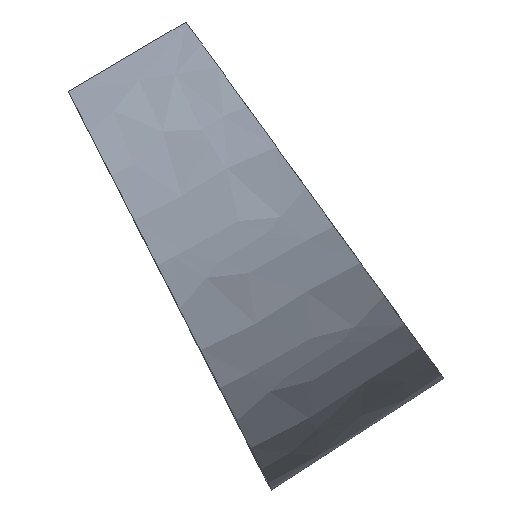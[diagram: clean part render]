
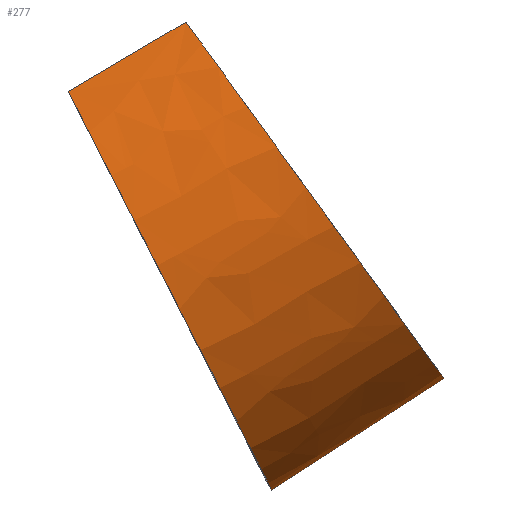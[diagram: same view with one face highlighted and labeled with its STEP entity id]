
A CAD part, top view. The second image highlights one B-rep face of the part: STEP entity #277.
In plain terms, the highlighted free-form (B-spline) face has degree [3, 3] with [13, 4] control points.
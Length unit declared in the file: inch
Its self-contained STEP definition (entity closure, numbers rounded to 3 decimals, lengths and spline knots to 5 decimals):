
#7 = CARTESIAN_POINT ( 'NONE',  ( 66.98755, -131.3271, 23.0329 ) ) ;
#8 = CARTESIAN_POINT ( 'NONE',  ( 86.36227, -118.91254, 22.64735 ) ) ;
#14 = CARTESIAN_POINT ( 'NONE',  ( 73.44579, -127.18892, 22.90437 ) ) ;
#15 = VERTEX_POINT ( 'NONE', #81 ) ;
#17 = CARTESIAN_POINT ( 'NONE',  ( 66.98755, -131.3271, 23.0329 ) ) ;
#18 = CARTESIAN_POINT ( 'NONE',  ( 70.55284, -138.29797, 6.29826 ) ) ;
#19 = ORIENTED_EDGE ( 'NONE', *, *, #146, .T. ) ;
#27 = CARTESIAN_POINT ( 'NONE',  ( 53.81729, -93.17151, 33.49519 ) ) ;
#28 = CARTESIAN_POINT ( 'NONE',  ( 74.14765, -102.03491, 34.67626 ) ) ;
#30 = CARTESIAN_POINT ( 'NONE',  ( 80.72152, -111.11856, 30.04021 ) ) ;
#33 = CARTESIAN_POINT ( 'NONE',  ( 46.51891, -91.30231, 30.61811 ) ) ;
#34 = CARTESIAN_POINT ( 'NONE',  ( 65.23694, -100.40221, 34.88499 ) ) ;
#36 = CARTESIAN_POINT ( 'NONE',  ( 56.8242, -98.38323, 35.09415 ) ) ;
#37 = CARTESIAN_POINT ( 'NONE',  ( 88.14638, -121.37759, 17.3987 ) ) ;
#39 = CARTESIAN_POINT ( 'NONE',  ( 77.33849, -133.93443, 0.12772 ) ) ;
#43 = CARTESIAN_POINT ( 'NONE',  ( 90.88945, -125.16757, 0.12776 ) ) ;
#49 = EDGE_CURVE ( 'NONE', #56, #178, #210, .T. ) ;
#50 = EDGE_CURVE ( 'NONE', #196, #56, #248, .T. ) ;
#55 = CARTESIAN_POINT ( 'NONE',  ( 62.53187, -122.61516, 30.553 ) ) ;
#56 = VERTEX_POINT ( 'NONE', #301 ) ;
#58 = CARTESIAN_POINT ( 'NONE',  ( 68.59509, -118.78298, 30.38207 ) ) ;
#59 = CARTESIAN_POINT ( 'NONE',  ( 89.93048, -123.84264, 12.15005 ) ) ;
#63 = CARTESIAN_POINT ( 'NONE',  ( 63.53772, -87.37295, 33.11671 ) ) ;
#78 = CARTESIAN_POINT ( 'NONE',  ( 90.87635, -125.14947, 6.19459 ) ) ;
#81 = CARTESIAN_POINT ( 'NONE',  ( 46.51891, -91.30231, 30.61811 ) ) ;
#82 = CARTESIAN_POINT ( 'NONE',  ( 65.94605, -114.19228, 33.45059 ) ) ;
#84 = CARTESIAN_POINT ( 'NONE',  ( 71.79356, -110.52722, 33.26221 ) ) ;
#94 = CARTESIAN_POINT ( 'NONE',  ( 69.80587, -136.8375, 12.35563 ) ) ;
#95 = CARTESIAN_POINT ( 'NONE',  ( 70.56301, -138.31785, 0.1277 ) ) ;
#112 = CARTESIAN_POINT ( 'NONE',  ( 58.67751, -90.27224, 33.30596 ) ) ;
#113 = CARTESIAN_POINT ( 'NONE',  ( 60.09853, -117.85733, 33.63897 ) ) ;
#115 = CARTESIAN_POINT ( 'NONE',  ( 83.22228, -128.17426, 12.21857 ) ) ;
#118 = CARTESIAN_POINT ( 'NONE',  ( 51.71925, -101.47243, 35.29227 ) ) ;
#119 = CARTESIAN_POINT ( 'NONE',  ( 90.87635, -125.14947, 6.19459 ) ) ;
#120 = EDGE_CURVE ( 'NONE', #178, #15, #272, .T. ) ;
#121 = ORIENTED_EDGE ( 'NONE', *, *, #50, .T. ) ;
#122 = CARTESIAN_POINT ( 'NONE',  ( 70.55284, -138.29797, 6.29826 ) ) ;
#127 = CARTESIAN_POINT ( 'NONE',  ( 84.11397, -129.551, 0.12774 ) ) ;
#131 = CARTESIAN_POINT ( 'NONE',  ( 86.36227, -118.91254, 22.64735 ) ) ;
#133 = CARTESIAN_POINT ( 'NONE',  ( 60.45155, -83.10772, 30.10206 ) ) ;
#136 = CARTESIAN_POINT ( 'NONE',  ( 55.80735, -85.83926, 30.27409 ) ) ;
#137 = CARTESIAN_POINT ( 'NONE',  ( 68.54473, -105.5104, 34.87396 ) ) ;
#146 = EDGE_CURVE ( 'NONE', #15, #196, #199, .T. ) ;
#148 = CARTESIAN_POINT ( 'NONE',  ( 64.9652, -127.373, 27.46703 ) ) ;
#152 = ORIENTED_EDGE ( 'NONE', *, *, #120, .T. ) ;
#155 = CARTESIAN_POINT ( 'NONE',  ( 46.51891, -91.30231, 30.61811 ) ) ;
#162 = CARTESIAN_POINT ( 'NONE',  ( 51.16313, -88.57079, 30.44611 ) ) ;
#163 = CARTESIAN_POINT ( 'NONE',  ( 70.56301, -138.31785, 0.1277 ) ) ;
#164 = CARTESIAN_POINT ( 'NONE',  ( 51.71925, -101.47243, 35.29227 ) ) ;
#167 = CARTESIAN_POINT ( 'NONE',  ( 76.51407, -132.50588, 12.2871 ) ) ;
#174 = EDGE_LOOP ( 'NONE', ( #19, #121, #315, #152 ) ) ;
#176 = CARTESIAN_POINT ( 'NONE',  ( 90.88945, -125.16757, 0.12776 ) ) ;
#177 = CARTESIAN_POINT ( 'NONE',  ( 77.64106, -106.86214, 33.07384 ) ) ;
#178 = VERTEX_POINT ( 'NONE', #218 ) ;
#180 = CARTESIAN_POINT ( 'NONE',  ( 77.64106, -106.86214, 33.07384 ) ) ;
#183 = CARTESIAN_POINT ( 'NONE',  ( 46.51891, -91.30231, 30.61811 ) ) ;
#188 = CARTESIAN_POINT ( 'NONE',  ( 89.93048, -123.84264, 12.15005 ) ) ;
#191 = CARTESIAN_POINT ( 'NONE',  ( 57.33888, -112.46132, 35.26935 ) ) ;
#196 = VERTEX_POINT ( 'NONE', #253 ) ;
#198 = CARTESIAN_POINT ( 'NONE',  ( 67.03408, -92.2048, 34.69788 ) ) ;
#199 = B_SPLINE_CURVE_WITH_KNOTS ( 'NONE', 3,
 ( #33, #215, #118, #191, #264, #235, #17, #260, #122, #163 ),
 .UNSPECIFIED., .F., .F.,
 ( 4, 2, 2, 2, 4 ),
 ( 0., 0.25, 0.5, 0.75, 1. ),
 .UNSPECIFIED. ) ;
#200 = CARTESIAN_POINT ( 'NONE',  ( 54.52906, -106.96687, 35.28081 ) ) ;
#206 = CARTESIAN_POINT ( 'NONE',  ( 60.45155, -83.10772, 30.10206 ) ) ;
#210 = B_SPLINE_CURVE_WITH_KNOTS ( 'NONE', 3,
 ( #176, #78, #59, #131, #319, #180, #28, #198, #220, #243 ),
 .UNSPECIFIED., .F., .F.,
 ( 4, 2, 2, 2, 4 ),
 ( 0., 0.25, 0.5, 0.75, 1. ),
 .UNSPECIFIED. ) ;
#211 = CARTESIAN_POINT ( 'NONE',  ( 84.11397, -129.551, 0.12774 ) ) ;
#214 = CARTESIAN_POINT ( 'NONE',  ( 79.90403, -123.05073, 22.77586 ) ) ;
#215 = CARTESIAN_POINT ( 'NONE',  ( 48.95707, -96.07076, 33.68441 ) ) ;
#218 = CARTESIAN_POINT ( 'NONE',  ( 60.45155, -83.10772, 30.10206 ) ) ;
#220 = CARTESIAN_POINT ( 'NONE',  ( 63.53772, -87.37295, 33.11671 ) ) ;
#222 = CARTESIAN_POINT ( 'NONE',  ( 59.88301, -103.68455, 35.0829 ) ) ;
#224 = CARTESIAN_POINT ( 'NONE',  ( 62.94181, -108.98587, 35.07165 ) ) ;
#225 = CARTESIAN_POINT ( 'NONE',  ( 70.56301, -138.31785, 0.1277 ) ) ;
#228 = CARTESIAN_POINT ( 'NONE',  ( 57.33888, -112.46132, 35.26935 ) ) ;
#230 = CARTESIAN_POINT ( 'NONE',  ( 61.92914, -95.29403, 34.89602 ) ) ;
#232 = CARTESIAN_POINT ( 'NONE',  ( 84.10184, -129.5323, 6.22914 ) ) ;
#235 = CARTESIAN_POINT ( 'NONE',  ( 64.9652, -127.373, 27.46703 ) ) ;
#236 = CARTESIAN_POINT ( 'NONE',  ( 81.56316, -125.6125, 17.49721 ) ) ;
#243 = CARTESIAN_POINT ( 'NONE',  ( 60.45155, -83.10772, 30.10206 ) ) ;
#244 = CARTESIAN_POINT ( 'NONE',  ( 77.33849, -133.93443, 0.12772 ) ) ;
#248 = B_SPLINE_CURVE_WITH_KNOTS ( 'NONE', 3,
 ( #225, #244, #127, #274 ),
 .UNSPECIFIED., .F., .F.,
 ( 4, 4 ),
 ( 0., 1. ),
 .UNSPECIFIED. ) ;
#250 = CARTESIAN_POINT ( 'NONE',  ( 74.65831, -114.95078, 30.21114 ) ) ;
#252 = CARTESIAN_POINT ( 'NONE',  ( 67.03408, -92.2048, 34.69788 ) ) ;
#253 = CARTESIAN_POINT ( 'NONE',  ( 70.56301, -138.31785, 0.1277 ) ) ;
#254 = B_SPLINE_SURFACE_WITH_KNOTS ( 'NONE', 3, 3, ( 
 ( #183, #162, #136, #206 ),
 ( #324, #27, #112, #63 ),
 ( #164, #36, #230, #252 ),
 ( #200, #222, #34, #273 ),
 ( #228, #224, #137, #302 ),
 ( #113, #82, #84, #177 ),
 ( #55, #58, #250, #30 ),
 ( #148, #259, #314, #265 ),
 ( #7, #14, #214, #8 ),
 ( #256, #289, #236, #37 ),
 ( #94, #167, #115, #188 ),
 ( #18, #285, #232, #119 ),
 ( #95, #39, #211, #43 ) ),
 .UNSPECIFIED., .F., .F., .F.,
 ( 4, 3, 3, 3, 4 ),
 ( 4, 4 ),
 ( 0., 0.25, 0.5, 0.75, 1. ),
 ( 0., 1. ),
 .UNSPECIFIED. ) ;
#256 = CARTESIAN_POINT ( 'NONE',  ( 68.39671, -134.0823, 17.69426 ) ) ;
#259 = CARTESIAN_POINT ( 'NONE',  ( 71.24413, -123.37367, 27.31354 ) ) ;
#260 = CARTESIAN_POINT ( 'NONE',  ( 69.80587, -136.8375, 12.35563 ) ) ;
#264 = CARTESIAN_POINT ( 'NONE',  ( 60.09853, -117.85733, 33.63897 ) ) ;
#265 = CARTESIAN_POINT ( 'NONE',  ( 83.80197, -115.37499, 27.00659 ) ) ;
#268 = CARTESIAN_POINT ( 'NONE',  ( 51.16313, -88.57079, 30.44611 ) ) ;
#272 = B_SPLINE_CURVE_WITH_KNOTS ( 'NONE', 3,
 ( #133, #325, #268, #155 ),
 .UNSPECIFIED., .F., .F.,
 ( 4, 4 ),
 ( 0., 1. ),
 .UNSPECIFIED. ) ;
#273 = CARTESIAN_POINT ( 'NONE',  ( 70.59086, -97.11985, 34.68707 ) ) ;
#274 = CARTESIAN_POINT ( 'NONE',  ( 90.88945, -125.16757, 0.12776 ) ) ;
#277 = ADVANCED_FACE ( 'NONE', ( #322 ), #254, .T. ) ;
#285 = CARTESIAN_POINT ( 'NONE',  ( 77.32734, -133.91514, 6.2637 ) ) ;
#289 = CARTESIAN_POINT ( 'NONE',  ( 74.97993, -129.8474, 17.59574 ) ) ;
#301 = CARTESIAN_POINT ( 'NONE',  ( 90.88945, -125.16757, 0.12776 ) ) ;
#302 = CARTESIAN_POINT ( 'NONE',  ( 74.14765, -102.03491, 34.67626 ) ) ;
#314 = CARTESIAN_POINT ( 'NONE',  ( 77.52305, -119.37434, 27.16006 ) ) ;
#315 = ORIENTED_EDGE ( 'NONE', *, *, #49, .T. ) ;
#319 = CARTESIAN_POINT ( 'NONE',  ( 83.80197, -115.37499, 27.00659 ) ) ;
#322 = FACE_OUTER_BOUND ( 'NONE', #174, .T. ) ;
#324 = CARTESIAN_POINT ( 'NONE',  ( 48.95707, -96.07076, 33.68441 ) ) ;
#325 = CARTESIAN_POINT ( 'NONE',  ( 55.80735, -85.83926, 30.27409 ) ) ;
